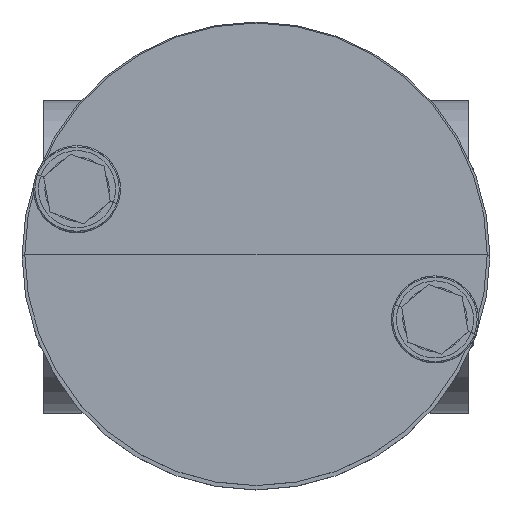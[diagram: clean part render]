
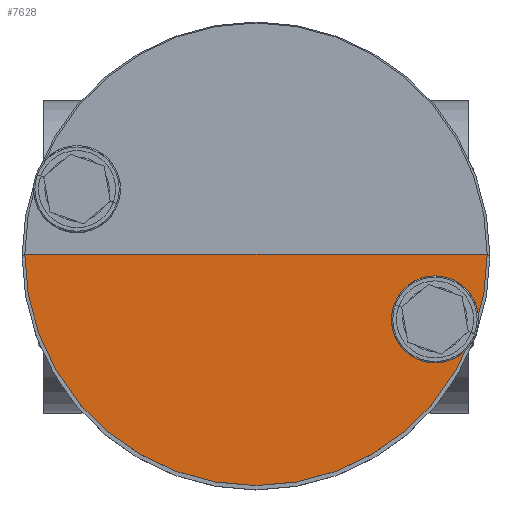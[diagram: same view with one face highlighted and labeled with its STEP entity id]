
A CAD part, top view. The second image highlights one B-rep face of the part: STEP entity #7628.
In plain terms, the highlighted planar face has unit normal (0, 0, 1).
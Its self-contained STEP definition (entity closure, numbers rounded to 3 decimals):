
#553=LINE('',#14154,#946);
#946=VECTOR('',#10207,304.8);
#1574=FACE_OUTER_BOUND('',#2112,.T.);
#2112=EDGE_LOOP('',(#5708,#5709));
#2703=CIRCLE('',#8452,84.997);
#3285=VERTEX_POINT('',#14137);
#3286=VERTEX_POINT('',#14139);
#4094=EDGE_CURVE('',#3286,#3285,#2703,.T.);
#4099=EDGE_CURVE('',#3285,#3286,#553,.T.);
#5708=ORIENTED_EDGE('',*,*,#4094,.F.);
#5709=ORIENTED_EDGE('',*,*,#4099,.F.);
#6750=PLANE('',#8458);
#7628=ADVANCED_FACE('',(#1574),#6750,.F.);
#8452=AXIS2_PLACEMENT_3D('',#14144,#10193,#10194);
#8458=AXIS2_PLACEMENT_3D('',#14155,#10208,#10209);
#10193=DIRECTION('center_axis',(0.,0.,-1.));
#10194=DIRECTION('ref_axis',(-1.,0.,0.));
#10207=DIRECTION('',(1.,0.,0.));
#10208=DIRECTION('center_axis',(0.,0.,-1.));
#10209=DIRECTION('ref_axis',(-1.,0.,0.));
#14137=CARTESIAN_POINT('',(-84.997,0.,479.305));
#14139=CARTESIAN_POINT('',(84.997,0.,479.305));
#14144=CARTESIAN_POINT('Origin',(0.,0.,479.305));
#14154=CARTESIAN_POINT('',(-84.997,0.,479.305));
#14155=CARTESIAN_POINT('Origin',(0.,0.,479.305));
